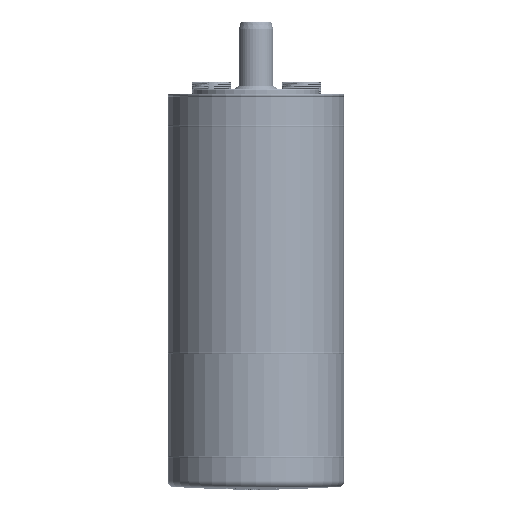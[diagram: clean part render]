
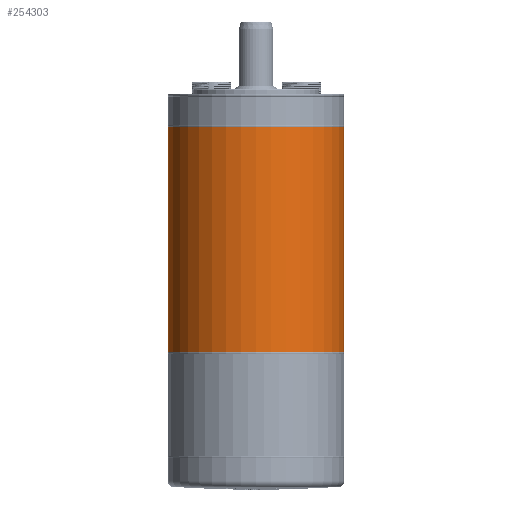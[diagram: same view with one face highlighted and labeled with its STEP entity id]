
A CAD part, front view. The second image highlights one B-rep face of the part: STEP entity #254303.
In plain terms, the highlighted cylindrical face has radius 49.06 mm (diameter 98.12 mm), a partial arc.
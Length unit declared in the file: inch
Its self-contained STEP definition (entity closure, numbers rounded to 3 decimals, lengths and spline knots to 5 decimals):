
#494 = CARTESIAN_POINT ( 'NONE',  ( 0., 0., -5.652 ) ) ;
#5160 = DIRECTION ( 'NONE',  ( 1., 0., 0. ) ) ;
#30173 = FACE_OUTER_BOUND ( 'NONE', #176670, .T. ) ;
#51532 = CARTESIAN_POINT ( 'NONE',  ( 0., 0., -0.728 ) ) ;
#52233 = CARTESIAN_POINT ( 'NONE',  ( -1.9315, 0., -5.652 ) ) ;
#58624 = AXIS2_PLACEMENT_3D ( 'NONE', #51532, #104988, #217273 ) ;
#67081 = ORIENTED_EDGE ( 'NONE', *, *, #151849, .T. ) ;
#81905 = CARTESIAN_POINT ( 'NONE',  ( 0., 0., 0.59277 ) ) ;
#83619 = CARTESIAN_POINT ( 'NONE',  ( 1.9315, 0., -0.728 ) ) ;
#89116 = CARTESIAN_POINT ( 'NONE',  ( 1.9315, 0., 0.59277 ) ) ;
#94472 = AXIS2_PLACEMENT_3D ( 'NONE', #81905, #245882, #5160 ) ;
#104988 = DIRECTION ( 'NONE',  ( 0., 0., 1. ) ) ;
#110387 = CYLINDRICAL_SURFACE ( 'NONE', #94472, 1.9315 ) ;
#112101 = VECTOR ( 'NONE', #194056, 39.37008 ) ;
#123705 = VECTOR ( 'NONE', #169363, 39.37008 ) ;
#127461 = CARTESIAN_POINT ( 'NONE',  ( 1.9315, 0., -5.652 ) ) ;
#128768 = ORIENTED_EDGE ( 'NONE', *, *, #225631, .F. ) ;
#136002 = DIRECTION ( 'NONE',  ( 0., 0., 1. ) ) ;
#151849 = EDGE_CURVE ( 'NONE', #178033, #253547, #270320, .T. ) ;
#167326 = CARTESIAN_POINT ( 'NONE',  ( -1.9315, 0., 0.59277 ) ) ;
#167774 = AXIS2_PLACEMENT_3D ( 'NONE', #494, #136002, #332044 ) ;
#169363 = DIRECTION ( 'NONE',  ( 0., 0., 1. ) ) ;
#176670 = EDGE_LOOP ( 'NONE', ( #128768, #67081, #302532, #245486 ) ) ;
#178033 = VERTEX_POINT ( 'NONE', #52233 ) ;
#194056 = DIRECTION ( 'NONE',  ( 0., 0., 1. ) ) ;
#217273 = DIRECTION ( 'NONE',  ( 1., 0., 0. ) ) ;
#225631 = EDGE_CURVE ( 'NONE', #178033, #254749, #243995, .T. ) ;
#243995 = LINE ( 'NONE', #167326, #112101 ) ;
#245127 = VERTEX_POINT ( 'NONE', #83619 ) ;
#245486 = ORIENTED_EDGE ( 'NONE', *, *, #291197, .F. ) ;
#245882 = DIRECTION ( 'NONE',  ( 0., 0., 1. ) ) ;
#253547 = VERTEX_POINT ( 'NONE', #127461 ) ;
#254303 = ADVANCED_FACE ( 'NONE', ( #30173 ), #110387, .T. ) ;
#254749 = VERTEX_POINT ( 'NONE', #295455 ) ;
#261001 = EDGE_CURVE ( 'NONE', #253547, #245127, #308364, .T. ) ;
#263468 = CIRCLE ( 'NONE', #58624, 1.9315 ) ;
#270320 = CIRCLE ( 'NONE', #167774, 1.9315 ) ;
#291197 = EDGE_CURVE ( 'NONE', #254749, #245127, #263468, .T. ) ;
#295455 = CARTESIAN_POINT ( 'NONE',  ( -1.9315, 0., -0.728 ) ) ;
#302532 = ORIENTED_EDGE ( 'NONE', *, *, #261001, .T. ) ;
#308364 = LINE ( 'NONE', #89116, #123705 ) ;
#332044 = DIRECTION ( 'NONE',  ( 1., 0., 0. ) ) ;
